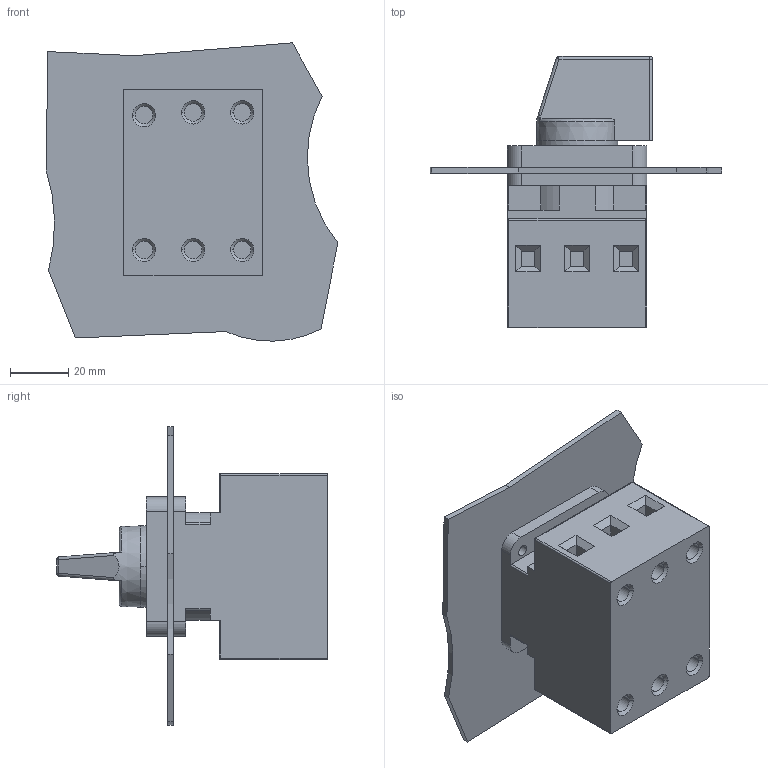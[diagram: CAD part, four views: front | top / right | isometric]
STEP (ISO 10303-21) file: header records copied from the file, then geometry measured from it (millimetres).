
FILE_DESCRIPTION (( 'STEP AP203' ), '1' );
FILE_NAME ('LTS20_25_32_40 EH1 A3.STEP', '2014-05-13T11:32:29', ( '' ), ( '' ), 'SwSTEP 2.0', 'SolidWorks 2014', '' );
FILE_SCHEMA (( 'CONFIG_CONTROL_DESIGN' ));
Length unit declared in the file: millimetre
Products named in the file (1): LTS20_25_32_40 EH1 A3
Bounding box: 100.42 x 93.2 x 102.66 mm (x, y, z)
Volume: 185224.2 mm3; surface area: 40753.3 mm2
Topology: 1 solids, 2 shells, 207 faces, 496 edges, 308 vertices
Faces by surface type: plane 118, cylinder 60, bspline 16, cone 13
Entity records: 6227 total; most frequent: CARTESIAN_POINT 1345, DIRECTION 1013, ORIENTED_EDGE 984, EDGE_CURVE 492, AXIS2_PLACEMENT_3D 344, VECTOR 325, LINE 325, VERTEX_POINT 308
